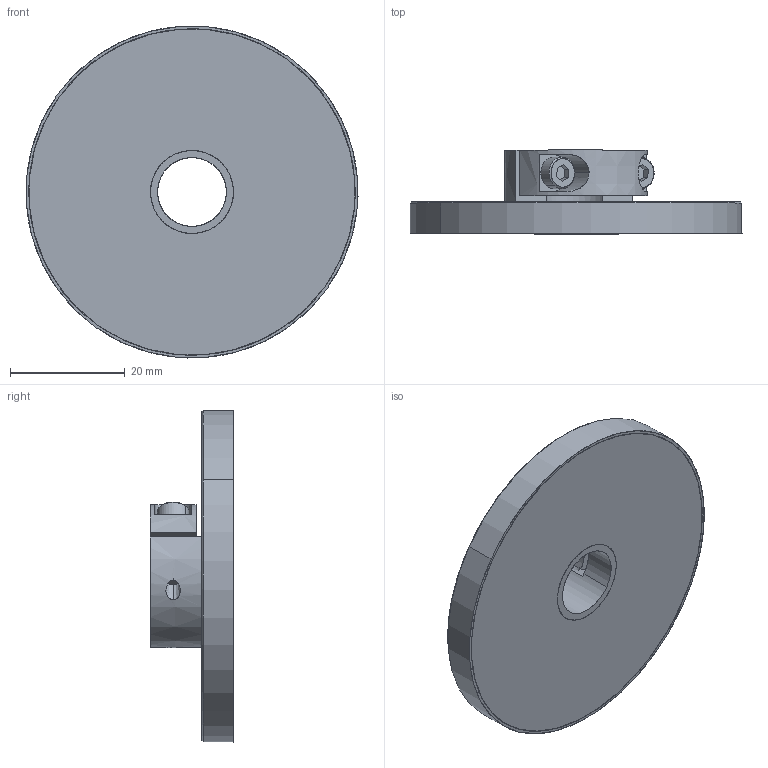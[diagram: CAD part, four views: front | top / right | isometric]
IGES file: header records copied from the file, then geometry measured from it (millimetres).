
Start section: SolidWorks IGES file using analytic representation for surfaces
Global section: file name: C:\Zettlex Data\Mechanical Drawings\1615\58mm Shaft Clamp Rotor 12.00mm Rev 1-0.IGS; native system: SolidWorks 2015; preprocessor: SolidWorks 2015; author: Nigel; date: 150907.174248; units: millimetre
Bounding box: 57.98 x 14.6 x 57.98 mm (x, y, z)
Surface area: 8574 mm2 (no closed solid volume)
Topology: 0 solids, 0 shells, 810 faces, 9806 edges, 9806 vertices
Faces by surface type: bspline 762, revolution 48
